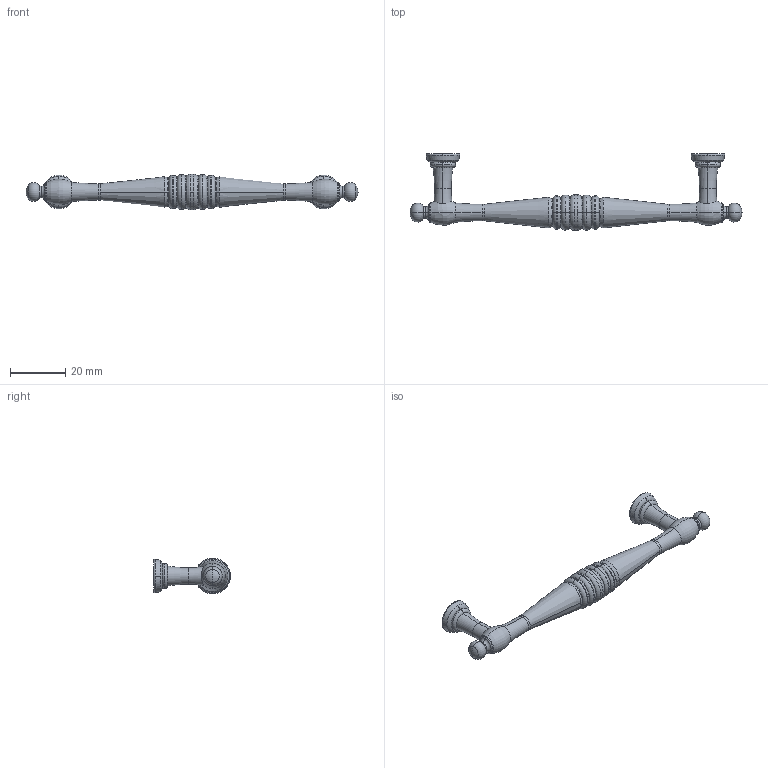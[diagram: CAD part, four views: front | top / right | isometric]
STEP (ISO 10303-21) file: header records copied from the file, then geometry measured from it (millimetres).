
FILE_DESCRIPTION( ( '' ), '1' );
FILE_NAME( 'D:/1.AUTOCAD EXPORT/Group 10/sheet_10_1/9113444.stp', '2013-10-18T06:16:13', ( '' ), ( '' ), ' ', ' ', ' ' );
FILE_SCHEMA( ( 'automotive_design' ) );
Length unit declared in the file: millimetre
Products named in the file (1): 1
Bounding box: 120.3 x 27.8 x 12.9 mm (x, y, z)
Volume: 8412.1 mm3; surface area: 4680.3 mm2
Topology: 1 solids, 1 shells, 142 faces, 334 edges, 198 vertices
Faces by surface type: torus 116, cone 12, cylinder 6, plane 4, sphere 4
Entity records: 8128 total; most frequent: DIRECTION 924, CARTESIAN_POINT 799, STYLED_ITEM 675, PRESENTATION_STYLE_ASSIGNMENT 675, COLOUR_RGB 675, ORIENTED_EDGE 668, AXIS2_PLACEMENT_3D 453, EDGE_CURVE 334
